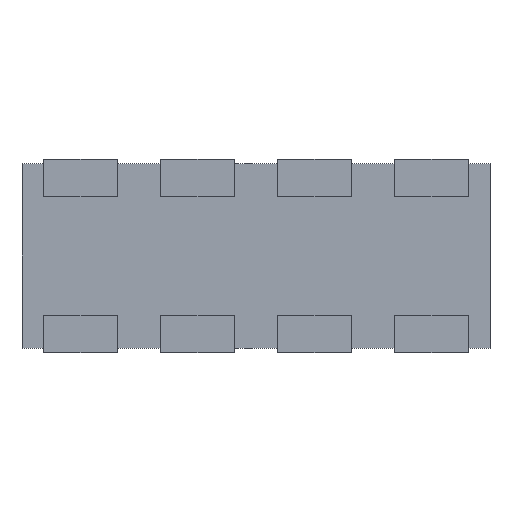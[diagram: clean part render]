
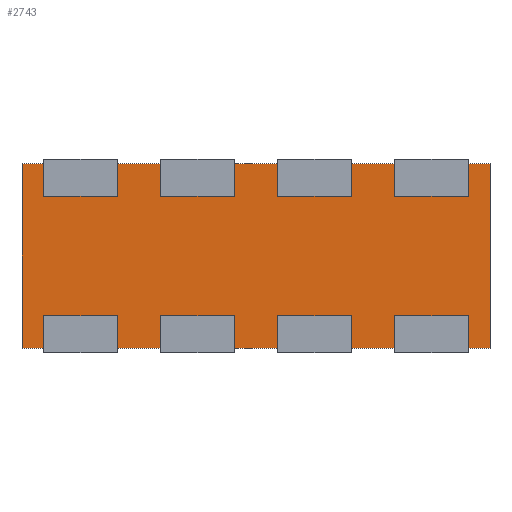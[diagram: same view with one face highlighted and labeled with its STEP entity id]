
A CAD part, front view. The second image highlights one B-rep face of the part: STEP entity #2743.
In plain terms, the highlighted planar face has unit normal (0, -1, 0).
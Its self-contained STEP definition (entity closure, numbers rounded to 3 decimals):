
#2596 = CARTESIAN_POINT ( 'NONE',  ( 2.54, 0.05, 1. ) ) ;
#2597 = VERTEX_POINT ( 'NONE', #2596 ) ;
#2598 = CARTESIAN_POINT ( 'NONE',  ( 2.54, 0.05, -1. ) ) ;
#2599 = VERTEX_POINT ( 'NONE', #2598 ) ;
#2600 = CARTESIAN_POINT ( 'NONE',  ( 2.54, 0.05, 1. ) ) ;
#2601 = DIRECTION ( 'NONE',  ( 0., 0., -1. ) ) ;
#2602 = VECTOR ( 'NONE', #2601, 1000. ) ;
#2603 = LINE ( 'NONE', #2600, #2602 ) ;
#2604 = EDGE_CURVE ( 'NONE', #2597, #2599, #2603, .T. ) ;
#2636 = CARTESIAN_POINT ( 'NONE',  ( -2.54, 0.05, -1. ) ) ;
#2637 = VERTEX_POINT ( 'NONE', #2636 ) ;
#2638 = CARTESIAN_POINT ( 'NONE',  ( -2.54, 0.05, -1. ) ) ;
#2639 = DIRECTION ( 'NONE',  ( -1., 0., 0. ) ) ;
#2640 = VECTOR ( 'NONE', #2639, 1000. ) ;
#2641 = LINE ( 'NONE', #2638, #2640 ) ;
#2642 = EDGE_CURVE ( 'NONE', #2599, #2637, #2641, .T. ) ;
#2667 = CARTESIAN_POINT ( 'NONE',  ( -2.54, 0.05, 1. ) ) ;
#2668 = VERTEX_POINT ( 'NONE', #2667 ) ;
#2669 = CARTESIAN_POINT ( 'NONE',  ( -2.54, 0.05, 1. ) ) ;
#2670 = DIRECTION ( 'NONE',  ( 0., 0., 1. ) ) ;
#2671 = VECTOR ( 'NONE', #2670, 1000. ) ;
#2672 = LINE ( 'NONE', #2669, #2671 ) ;
#2673 = EDGE_CURVE ( 'NONE', #2637, #2668, #2672, .T. ) ;
#2698 = CARTESIAN_POINT ( 'NONE',  ( -2.54, 0.05, 1. ) ) ;
#2699 = DIRECTION ( 'NONE',  ( 1., 0., 0. ) ) ;
#2700 = VECTOR ( 'NONE', #2699, 1000. ) ;
#2701 = LINE ( 'NONE', #2698, #2700 ) ;
#2702 = EDGE_CURVE ( 'NONE', #2668, #2597, #2701, .T. ) ;
#2732 = ORIENTED_EDGE ( 'NONE', *, *, #2604, .F. ) ;
#2733 = ORIENTED_EDGE ( 'NONE', *, *, #2702, .F. ) ;
#2734 = ORIENTED_EDGE ( 'NONE', *, *, #2673, .F. ) ;
#2735 = ORIENTED_EDGE ( 'NONE', *, *, #2642, .F. ) ;
#2736 = EDGE_LOOP ( 'NONE', ( #2732, #2733, #2734, #2735 ) ) ;
#2737 = FACE_OUTER_BOUND ( 'NONE', #2736, .T. ) ;
#2738 = CARTESIAN_POINT ( 'NONE',  ( 0., 0.05, 0. ) ) ;
#2739 = DIRECTION ( 'NONE',  ( 0., -1., 0. ) ) ;
#2740 = DIRECTION ( 'NONE',  ( 0., 0., -1. ) ) ;
#2741 = AXIS2_PLACEMENT_3D ( 'NONE', #2738, #2739, #2740 ) ;
#2742 = PLANE ( 'NONE', #2741 ) ;
#2743 = ADVANCED_FACE ( 'NONE', ( #2737 ), #2742, .T. ) ;
